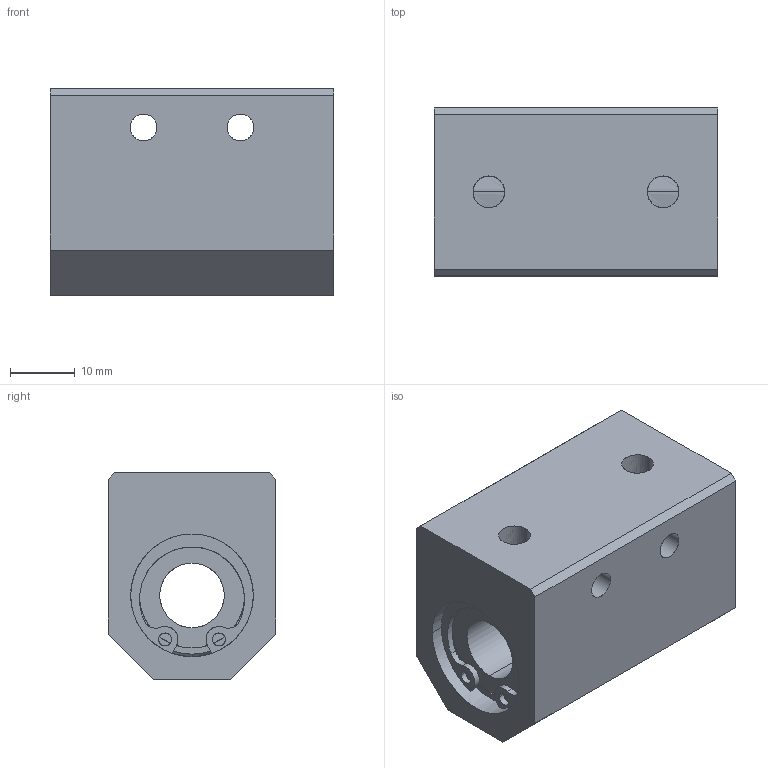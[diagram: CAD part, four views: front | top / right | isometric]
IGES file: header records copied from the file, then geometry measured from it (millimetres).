
Global section: file name: No Iges File Name specified; native system: AutoDesk Inventor R10; preprocessor: AutoDesk Inventor Iges Exporter R10; author: No Author specified; organization: No Organization specified; date: 20101216.151740; units: millimetre
Bounding box: 44 x 26 x 32 mm (x, y, z)
Surface area: 9512.2 mm2 (no closed solid volume)
Topology: 0 solids, 0 shells, 102 faces, 732 edges, 732 vertices
Faces by surface type: bspline 102
